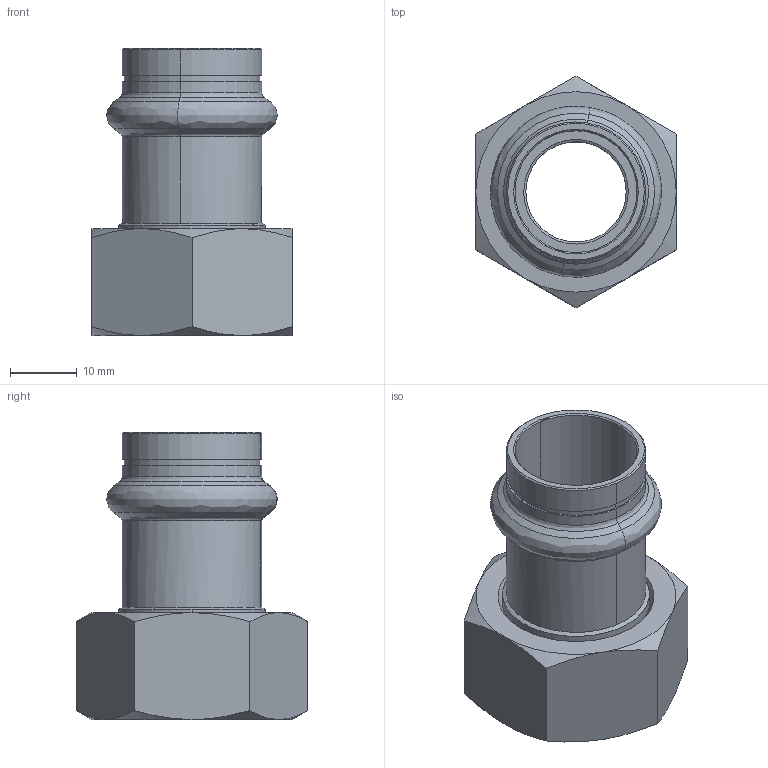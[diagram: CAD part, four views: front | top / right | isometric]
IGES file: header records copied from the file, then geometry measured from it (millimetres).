
Start section: Elysium IGES Interface
Global section: file name: C:\3d modellen sudo\C-Pr VP\SP8359GV\8359GVW1834.igs; native system: CoCreate Modeling 17.00A  17-Jun-2010; preprocessor: CoCreate IGES_3D V2.2; author: Unknown; organization: Unknown; date: 20130305.134020; units: millimetre
Bounding box: 30 x 34.64 x 42.96 mm (x, y, z)
Volume: 10085 mm3; surface area: 8400.1 mm2
Topology: 2 solids, 2 shells, 84 faces, 186 edges, 110 vertices
Faces by surface type: bspline 84
